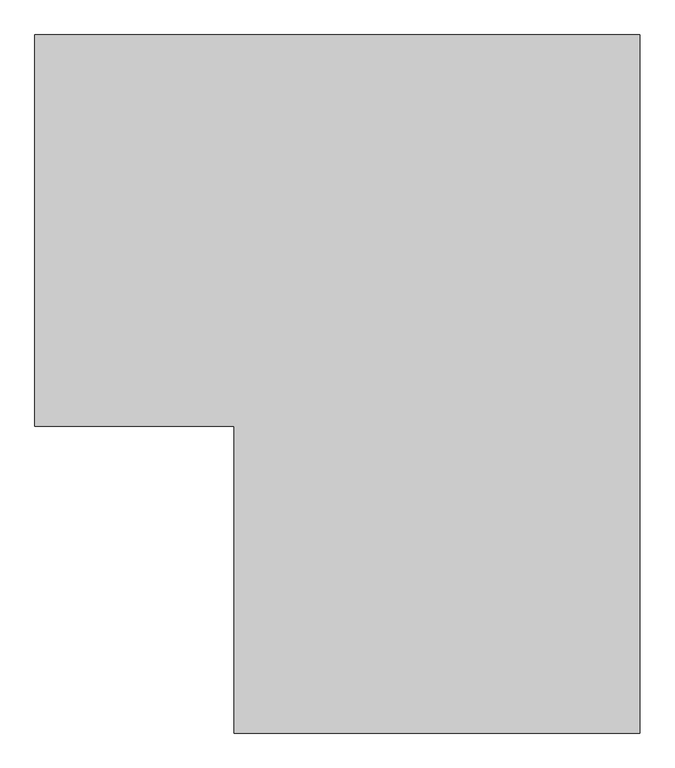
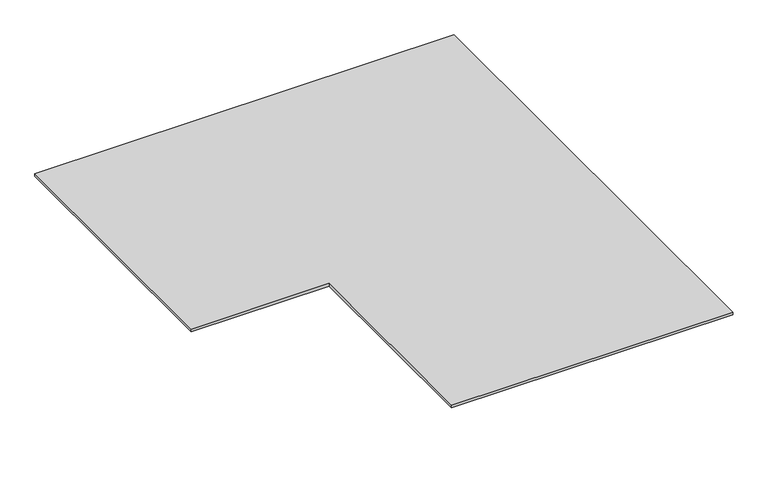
"""IFC4 building model written with IfcOpenShell, lengths in millimetres: proxy geometry, Фиброцементная плита LATONIT окрашенная в массе_1 прямоугольное отверстие : 10 мм."""

from ifc_helpers import new_model, si_unit, frame, origin, place, context, project, spatial, polyline, outline, extrude, source, transform, mapped, element, save


def generic_models_e7adf15b(model_context):
    return source(origin(), model_context, "Body", "SweptSolid", [
        extrude(outline(polyline([(1500.0, 1730.0), (1500.0, 0.0), (493.5, 0.0), (493.5, 760.0), (0.0, 760.0), (0.0, 1730.0), (1500.0, 1730.0)])), frame((0.0, 0.0, 240.0), z_axis=(0.0, 0.0, 1.0), x_axis=(1.0, 0.0, 0.0)), (0.0, 0.0, 1.0), 10.0),
    ])


if __name__ == "__main__":
    model = new_model("IFC4")
    model_context = context("Model", 3, world=origin())
    ifc_project = project(units=[si_unit("LENGTHUNIT", "METRE", prefix="MILLI")], contexts=[model_context])
    site = spatial("IfcSite", under=ifc_project)
    building = spatial("IfcBuilding", under=site)
    placement = place(None, origin())
    generic_models_shape = generic_models_e7adf15b(model_context)
    element("IfcBuildingElementProxy", 1, Name="Фиброцементная плита LATONIT окрашенная в массе_1 прямоугольное отверстие : 10 мм", ObjectType="Фиброцементная плита LATONIT окрашенная в массе_1 прямоугольное отверстие : 10 мм", at=placement, inside=building, context=model_context, shape_type="MappedRepresentation", body=[
        mapped(generic_models_shape, transform((0.0, 0.0, 0.0), x_axis=(1.0, 0.0, 0.0), y_axis=(0.0, 1.0, 0.0), z_axis=(0.0, 0.0, 1.0))),
    ])
    save(model, "model.ifc")
